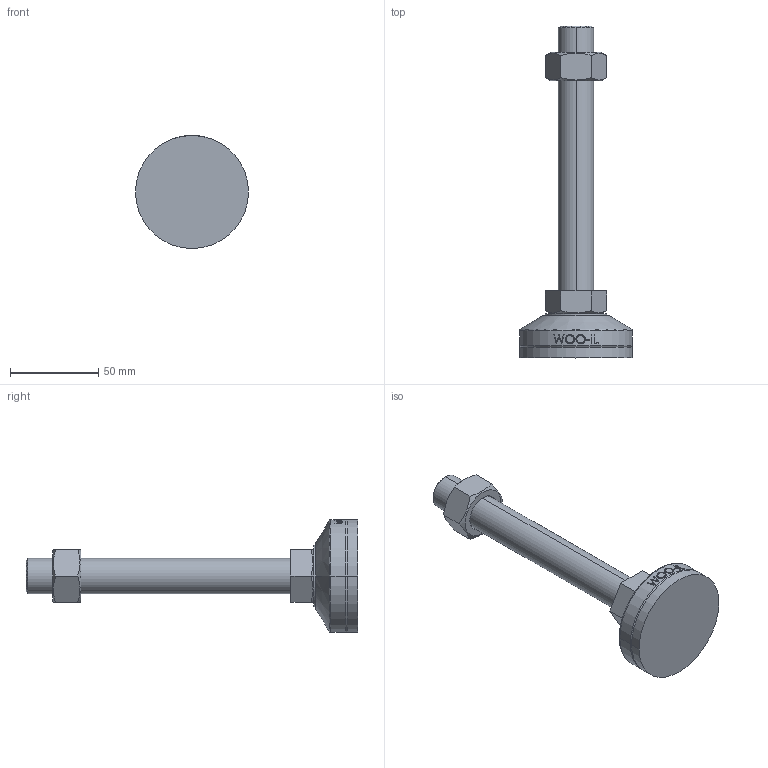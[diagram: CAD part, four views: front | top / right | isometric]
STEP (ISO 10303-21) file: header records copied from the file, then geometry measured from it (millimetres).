
FILE_DESCRIPTION (( 'STEP AP214' ), '1' );
FILE_NAME ('MFR64-M20-150.step', '2021-01-13T05:38:35', ( '' ), ( '' ), 'SwSTEP 2.0', 'SolidWorks 2019', '' );
FILE_SCHEMA (( 'AUTOMOTIVE_DESIGN' ));
Length unit declared in the file: millimetre
Products named in the file (2): MFR64-M20-150
Bounding box: 64 x 188 x 64 mm (x, y, z)
Volume: 133223.4 mm3; surface area: 26076.5 mm2
Topology: 3 solids, 3 shells, 102 faces, 239 edges, 154 vertices
Faces by surface type: plane 48, cylinder 18, bspline 16, cone 14, torus 6
Entity records: 4418 total; most frequent: CARTESIAN_POINT 2143, ORIENTED_EDGE 478, DIRECTION 415, EDGE_CURVE 239, AXIS2_PLACEMENT_3D 158, VERTEX_POINT 154, EDGE_LOOP 115, FACE_OUTER_BOUND 102
